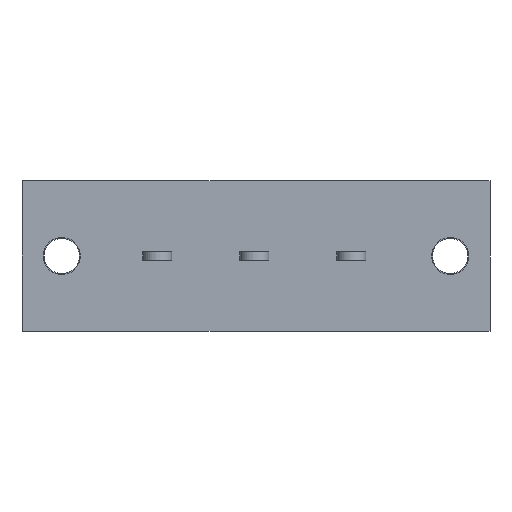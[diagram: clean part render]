
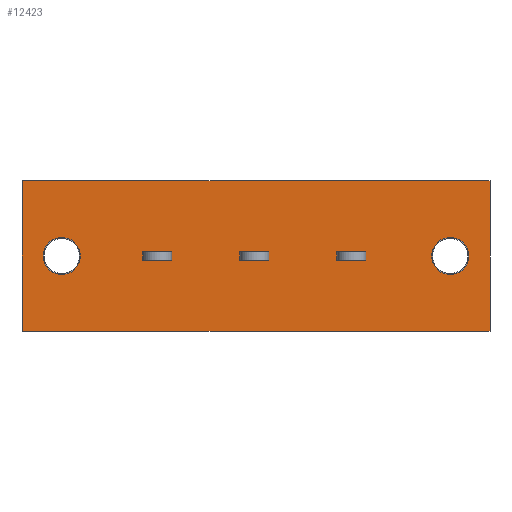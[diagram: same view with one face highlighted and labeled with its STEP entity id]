
A CAD part, front view. The second image highlights one B-rep face of the part: STEP entity #12423.
In plain terms, the highlighted planar face has unit normal (0, -1, 0).
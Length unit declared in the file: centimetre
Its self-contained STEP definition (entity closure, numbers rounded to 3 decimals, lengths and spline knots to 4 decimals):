
#908=VECTOR('',#13519,1.);
#1399=VECTOR('',#14318,1.);
#1568=VECTOR('',#14761,1.);
#1572=VECTOR('',#14766,1.);
#1587=VECTOR('',#14803,1.);
#1595=VECTOR('',#14815,1.);
#1713=VECTOR('',#15129,1.);
#1717=VECTOR('',#15134,1.);
#1732=VECTOR('',#15171,1.);
#1740=VECTOR('',#15183,1.);
#1807=VECTOR('',#15308,1.);
#1808=VECTOR('',#15309,1.);
#1809=VECTOR('',#15310,1.);
#1810=VECTOR('',#15311,1.);
#1811=VECTOR('',#15312,1.);
#1812=VECTOR('',#15313,1.);
#2280=LINE('',#16972,#908);
#2771=LINE('',#18811,#1399);
#2940=LINE('',#19366,#1568);
#2944=LINE('',#19375,#1572);
#2959=LINE('',#19419,#1587);
#2967=LINE('',#19435,#1595);
#3085=LINE('',#19836,#1713);
#3089=LINE('',#19845,#1717);
#3104=LINE('',#19889,#1732);
#3112=LINE('',#19905,#1740);
#3179=LINE('',#20067,#1807);
#3180=LINE('',#20070,#1808);
#3181=LINE('',#20072,#1809);
#3182=LINE('',#20074,#1810);
#3183=LINE('',#20075,#1811);
#3184=LINE('',#20076,#1812);
#3656=VERTEX_POINT('',#16973);
#3657=VERTEX_POINT('',#16974);
#3668=VERTEX_POINT('',#16998);
#4103=VERTEX_POINT('',#18812);
#4104=VERTEX_POINT('',#18813);
#4115=VERTEX_POINT('',#18837);
#4286=VERTEX_POINT('',#19367);
#4287=VERTEX_POINT('',#19368);
#4290=VERTEX_POINT('',#19376);
#4306=VERTEX_POINT('',#19420);
#4432=VERTEX_POINT('',#19837);
#4433=VERTEX_POINT('',#19838);
#4436=VERTEX_POINT('',#19846);
#4452=VERTEX_POINT('',#19890);
#4513=VERTEX_POINT('',#20068);
#4514=VERTEX_POINT('',#20069);
#4515=VERTEX_POINT('',#20071);
#4516=VERTEX_POINT('',#20073);
#4544=CIRCLE('',#20339,0.21);
#4587=CIRCLE('',#20576,0.21);
#5264=EDGE_CURVE('',#3656,#3657,#2280,.T.);
#5276=EDGE_CURVE('',#3668,#3668,#4544,.T.);
#5919=EDGE_CURVE('',#4103,#4104,#2771,.T.);
#5931=EDGE_CURVE('',#4115,#4115,#4587,.T.);
#6180=EDGE_CURVE('',#4286,#4287,#2940,.T.);
#6184=EDGE_CURVE('',#4290,#4286,#2944,.T.);
#6206=EDGE_CURVE('',#4306,#4290,#2959,.T.);
#6215=EDGE_CURVE('',#4287,#4306,#2967,.T.);
#6398=EDGE_CURVE('',#4432,#4433,#3085,.T.);
#6402=EDGE_CURVE('',#4436,#4432,#3089,.T.);
#6424=EDGE_CURVE('',#4452,#4436,#3104,.T.);
#6433=EDGE_CURVE('',#4433,#4452,#3112,.T.);
#6516=EDGE_CURVE('',#4513,#4514,#3179,.T.);
#6517=EDGE_CURVE('',#4515,#4513,#3180,.T.);
#6518=EDGE_CURVE('',#4516,#4515,#3181,.T.);
#6519=EDGE_CURVE('',#4514,#4516,#3182,.T.);
#6520=EDGE_CURVE('',#4104,#3656,#3183,.T.);
#6521=EDGE_CURVE('',#3657,#4103,#3184,.T.);
#10041=ORIENTED_EDGE('',*,*,#5276,.T.);
#10042=ORIENTED_EDGE('',*,*,#5931,.T.);
#10043=ORIENTED_EDGE('',*,*,#6516,.F.);
#10044=ORIENTED_EDGE('',*,*,#6517,.F.);
#10045=ORIENTED_EDGE('',*,*,#6518,.F.);
#10046=ORIENTED_EDGE('',*,*,#6519,.F.);
#10047=ORIENTED_EDGE('',*,*,#6184,.T.);
#10048=ORIENTED_EDGE('',*,*,#6180,.T.);
#10049=ORIENTED_EDGE('',*,*,#6215,.T.);
#10050=ORIENTED_EDGE('',*,*,#6206,.T.);
#10051=ORIENTED_EDGE('',*,*,#6402,.T.);
#10052=ORIENTED_EDGE('',*,*,#6398,.T.);
#10053=ORIENTED_EDGE('',*,*,#6433,.T.);
#10054=ORIENTED_EDGE('',*,*,#6424,.T.);
#10055=ORIENTED_EDGE('',*,*,#6520,.T.);
#10056=ORIENTED_EDGE('',*,*,#5264,.T.);
#10057=ORIENTED_EDGE('',*,*,#6521,.T.);
#10058=ORIENTED_EDGE('',*,*,#5919,.T.);
#10976=EDGE_LOOP('',(#10041));
#10977=EDGE_LOOP('',(#10042));
#10978=EDGE_LOOP('',(#10043,#10044,#10045,#10046));
#10979=EDGE_LOOP('',(#10047,#10048,#10049,#10050));
#10980=EDGE_LOOP('',(#10051,#10052,#10053,#10054));
#10981=EDGE_LOOP('',(#10055,#10056,#10057,#10058));
#11736=FACE_BOUND('',#10976,.T.);
#11737=FACE_BOUND('',#10977,.T.);
#11738=FACE_BOUND('',#10978,.T.);
#11739=FACE_BOUND('',#10979,.T.);
#11740=FACE_BOUND('',#10980,.T.);
#11741=FACE_BOUND('',#10981,.T.);
#12423=ADVANCED_FACE('',(#11736,#11737,#11738,#11739,#11740,#11741),#12899,
 .T.);
#12899=PLANE('',#20928);
#13519=DIRECTION('',(0.,0.,1.));
#13537=DIRECTION('',(0.,1.,0.));
#13538=DIRECTION('',(0.21,0.,0.));
#14318=DIRECTION('',(0.,0.,-1.));
#14336=DIRECTION('',(0.,1.,0.));
#14337=DIRECTION('',(-0.21,0.,0.));
#14761=DIRECTION('',(0.,0.,1.));
#14766=DIRECTION('',(-1.,0.,0.));
#14803=DIRECTION('',(0.,0.,-1.));
#14815=DIRECTION('',(1.,0.,0.));
#15129=DIRECTION('',(0.,0.,1.));
#15134=DIRECTION('',(-1.,0.,0.));
#15171=DIRECTION('',(0.,0.,-1.));
#15183=DIRECTION('',(1.,0.,0.));
#15307=DIRECTION('',(0.,-1.,0.));
#15308=DIRECTION('',(1.,0.,0.));
#15309=DIRECTION('',(0.,0.,-1.));
#15310=DIRECTION('',(-1.,0.,0.));
#15311=DIRECTION('',(0.,0.,1.));
#15312=DIRECTION('',(1.,0.,0.));
#15313=DIRECTION('',(-1.,0.,0.));
#16972=CARTESIAN_POINT('',(3.3,0.,0.85));
#16973=CARTESIAN_POINT('',(3.3,0.,-0.85));
#16974=CARTESIAN_POINT('',(3.3,0.,0.85));
#16997=CARTESIAN_POINT('',(2.85,0.,0.));
#16998=CARTESIAN_POINT('',(2.64,0.,0.));
#18811=CARTESIAN_POINT('',(-2.,0.,-0.85));
#18812=CARTESIAN_POINT('',(-2.,0.,0.85));
#18813=CARTESIAN_POINT('',(-2.,0.,-0.85));
#18836=CARTESIAN_POINT('',(-1.55,0.,0.));
#18837=CARTESIAN_POINT('',(-1.34,0.,0.));
#19366=CARTESIAN_POINT('',(1.565,0.,0.));
#19367=CARTESIAN_POINT('',(1.565,0.,-0.05));
#19368=CARTESIAN_POINT('',(1.565,0.,0.05));
#19375=CARTESIAN_POINT('',(0.865,0.,-0.05));
#19376=CARTESIAN_POINT('',(1.895,0.,-0.05));
#19419=CARTESIAN_POINT('',(1.895,0.,0.));
#19420=CARTESIAN_POINT('',(1.895,0.,0.05));
#19435=CARTESIAN_POINT('',(0.865,0.,0.05));
#19836=CARTESIAN_POINT('',(0.465,0.,0.));
#19837=CARTESIAN_POINT('',(0.465,0.,-0.05));
#19838=CARTESIAN_POINT('',(0.465,0.,0.05));
#19845=CARTESIAN_POINT('',(0.315,0.,-0.05));
#19846=CARTESIAN_POINT('',(0.795,0.,-0.05));
#19889=CARTESIAN_POINT('',(0.795,0.,0.));
#19890=CARTESIAN_POINT('',(0.795,0.,0.05));
#19905=CARTESIAN_POINT('',(0.315,0.,0.05));
#20066=CARTESIAN_POINT('',(0.,0.,0.));
#20067=CARTESIAN_POINT('',(-0.685,0.,-0.05));
#20068=CARTESIAN_POINT('',(-0.635,0.,-0.05));
#20069=CARTESIAN_POINT('',(-0.305,0.,-0.05));
#20070=CARTESIAN_POINT('',(-0.635,0.,0.));
#20071=CARTESIAN_POINT('',(-0.635,0.,0.05));
#20072=CARTESIAN_POINT('',(-0.685,0.,0.05));
#20073=CARTESIAN_POINT('',(-0.305,0.,0.05));
#20074=CARTESIAN_POINT('',(-0.305,0.,0.));
#20075=CARTESIAN_POINT('',(0.,0.,-0.85));
#20076=CARTESIAN_POINT('',(-1.1,0.,0.85));
#20339=AXIS2_PLACEMENT_3D('',#16997,#13537,#13538);
#20576=AXIS2_PLACEMENT_3D('',#18836,#14336,#14337);
#20928=AXIS2_PLACEMENT_3D('',#20066,#15307,$);
